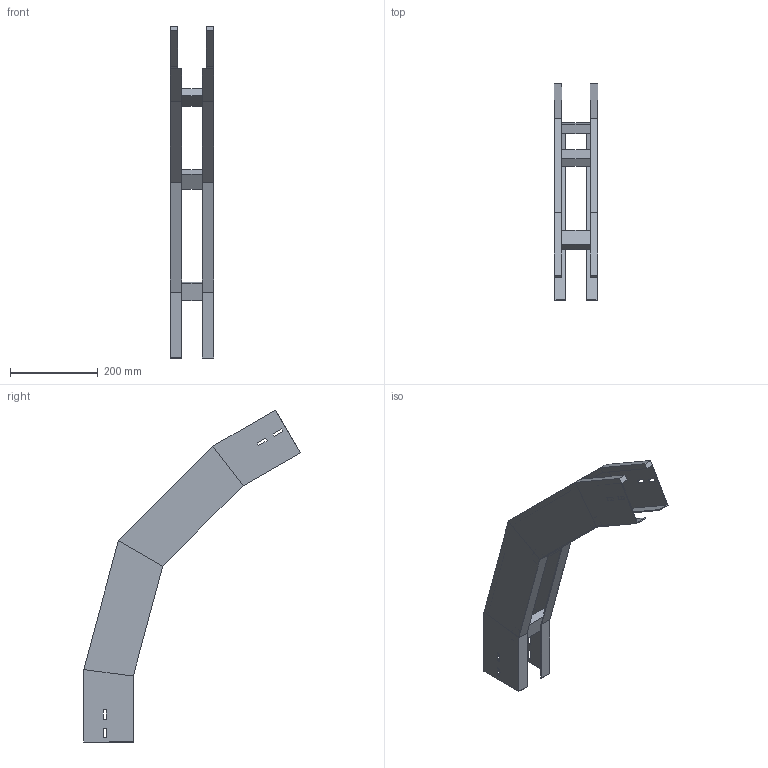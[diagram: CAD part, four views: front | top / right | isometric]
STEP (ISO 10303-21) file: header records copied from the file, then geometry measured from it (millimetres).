
FILE_DESCRIPTION (( 'STEP AP214' ), '1' );
FILE_NAME ('41B5J100.step', '2025-02-21T14:57:34', ( '' ), ( '' ), 'SwSTEP 2.0', 'SolidWorks 2023', '' );
FILE_SCHEMA (( 'AUTOMOTIVE_DESIGN' ));
Length unit declared in the file: millimetre
Products named in the file (3): 41B5J100; LONGH.DISCESA_60°_H112.5_R500; TRAVERSINO_100
Assembly tree (5 placements, depth 2):
  41B5J100
    LONGH.DISCESA_60°_H112.5_R500  x2
    TRAVERSINO_100  x3
Bounding box: 100 x 492.58 x 755.74 mm (x, y, z)
Volume: 1065281.3 mm3; surface area: 583557.2 mm2
Topology: 5 solids, 5 shells, 118 faces, 276 edges, 168 vertices
Faces by surface type: plane 118
Entity records: 1672 total; most frequent: CARTESIAN_POINT 276, ORIENTED_EDGE 264, DIRECTION 260, EDGE_CURVE 132, VECTOR 132, LINE 132, VERTEX_POINT 80, EDGE_LOOP 64
